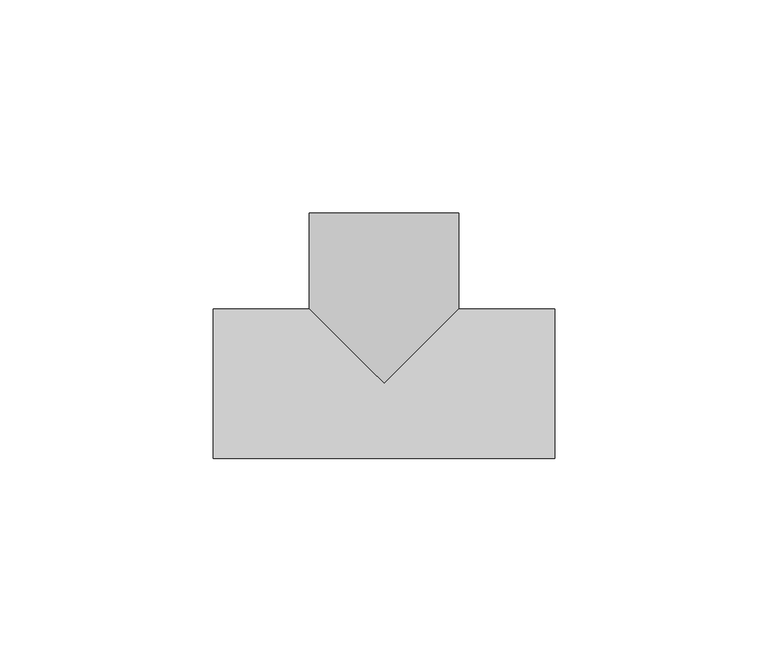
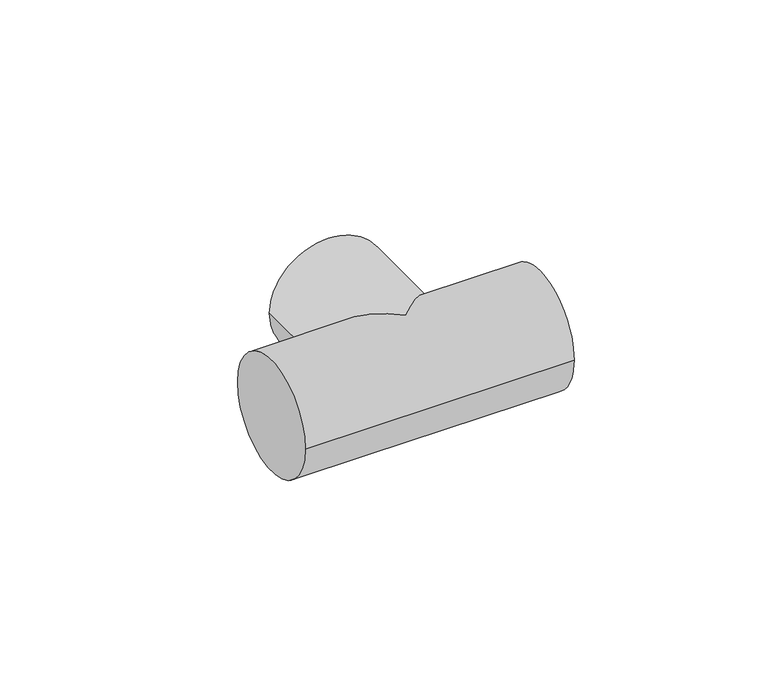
"""IFC4 building model written with IfcOpenShell, lengths in millimetres: cable carrier fitting geometry, Тройник_соед._для_трубы : Тройник соед. для трубы 32мм (10шт) серый."""

from ifc_helpers import new_model, si_unit, frame, origin, place, context, project, spatial, circle_curve, ellipse_curve, source, transform, mapped, element, save
from ifc_brep_helpers import plane_surface, cylinder_surface, advanced_brep


def cable_carrier_fitting_233ad362(model_context):
    return source(origin(), model_context, "Body", "AdvancedBrep", [
        advanced_brep(
        [(40.0, -17.5, 0.0), (40.0, 17.5, 0.0), (-40.0, -17.5, 0.0), (-40.0, 17.5, 0.0), (-17.5, 17.5, 0.0), (0.0, 0.0, -17.5), (17.5, 17.5, 0.0), (0.0, 0.0, 17.5), (-17.5, 40.0, 0.0), (17.5, 40.0, 0.0)],
        [
            (0, 1, circle_curve(frame((40.0, 0.0, 0.0), z_axis=(1.0, 0.0, 0.0), x_axis=(0.0, 1.0, 0.0)), 17.5)),
            (1, 0, circle_curve(frame((40.0, 0.0, 0.0), z_axis=(1.0, 0.0, 0.0), x_axis=(0.0, 1.0, 0.0)), 17.5)),
            (2, 3, circle_curve(frame((-40.0, 0.0, 0.0), z_axis=(-1.0, 0.0, 0.0), x_axis=(0.0, 1.0, 0.0)), 17.5)),
            (3, 2, circle_curve(frame((-40.0, 0.0, 0.0), z_axis=(-1.0, 0.0, 0.0), x_axis=(0.0, 1.0, 0.0)), 17.5)),
            (0, 2),
            (3, 4),
            (4, 5, ellipse_curve(frame((0.0, 0.0, 0.0), z_axis=(-0.7071067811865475, -0.7071067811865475, 0.0), x_axis=(0.7071067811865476, -0.7071067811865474, 0.0)), 24.7487373, 17.5)),
            (5, 6, ellipse_curve(frame((0.0, 0.0, 0.0), z_axis=(0.7071067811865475, -0.7071067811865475, 0.0), x_axis=(0.7071067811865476, 0.7071067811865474, 0.0)), 24.7487373, 17.5)),
            (6, 1),
            (6, 7, ellipse_curve(frame((0.0, 0.0, 0.0), z_axis=(0.7071067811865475, -0.7071067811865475, 0.0), x_axis=(0.7071067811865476, 0.7071067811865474, 0.0)), 24.7487373, 17.5)),
            (7, 4, ellipse_curve(frame((0.0, 0.0, 0.0), z_axis=(-0.7071067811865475, -0.7071067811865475, 0.0), x_axis=(0.7071067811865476, -0.7071067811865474, 0.0)), 24.7487373, 17.5)),
            (8, 9, circle_curve(frame((0.0, 40.0, 0.0), z_axis=(0.0, 1.0, 0.0), x_axis=(0.9999999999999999, 0.0, 0.0)), 17.5)),
            (9, 8, circle_curve(frame((0.0, 40.0, 0.0), z_axis=(0.0, 1.0, 0.0), x_axis=(0.9999999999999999, 0.0, 0.0)), 17.5)),
            (9, 6),
            (4, 8),
        ],
        [
            plane_surface(frame((40.0, 17.5, 0.0), z_axis=(1.0, 0.0, 0.0), x_axis=(0.0, 0.0, 1.0))),
            plane_surface(frame((-40.0, 17.5, 0.0), z_axis=(-1.0, 0.0, 0.0), x_axis=(0.0, 0.0, -1.0))),
            cylinder_surface(frame((-40.0, 0.0, 0.0), z_axis=(0.9999999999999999, 0.0, 0.0), x_axis=(0.0, 1.0, 0.0)), 17.5),
            plane_surface(frame((17.5, 40.0, 0.0), z_axis=(0.0, 1.0, 0.0), x_axis=(0.0, 0.0, -1.0))),
            cylinder_surface(frame((0.0, 40.0, 0.0), z_axis=(0.0, -0.9999999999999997, 0.0), x_axis=(0.9999999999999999, 0.0, 0.0)), 17.5),
        ],
        [
            (0, [[1, 2]]),
            (1, [[3, 4]]),
            (2, [[-1, 5, -4, 6, 7, 8, 9]]),
            (2, [[-2, -9, 10, 11, -6, -3, -5]]),
            (3, [[12, 13]]),
            (4, [[-13, 14, -8, -7, 15]]),
            (4, [[-12, -15, -11, -10, -14]]),
        ],
    ),
    ])


if __name__ == "__main__":
    model = new_model("IFC4")
    model_context = context("Model", 3, world=origin())
    ifc_project = project(units=[si_unit("LENGTHUNIT", "METRE", prefix="MILLI")], contexts=[model_context])
    site = spatial("IfcSite", under=ifc_project)
    building = spatial("IfcBuilding", under=site)
    placement = place(None, origin())
    cable_carrier_fitting_shape = cable_carrier_fitting_233ad362(model_context)
    element("IfcCableCarrierFitting", 1, ObjectType="Тройник_соед._для_трубы : Тройник соед. для трубы 32мм (10шт) серый", at=placement, inside=building, context=model_context, shape_type="MappedRepresentation", body=[
        mapped(cable_carrier_fitting_shape, transform((0.0, 0.0, 0.0), x_axis=(1.0, 0.0, 0.0), y_axis=(0.0, 1.0, 0.0), z_axis=(0.0, 0.0, 1.0))),
    ])
    save(model, "model.ifc")
